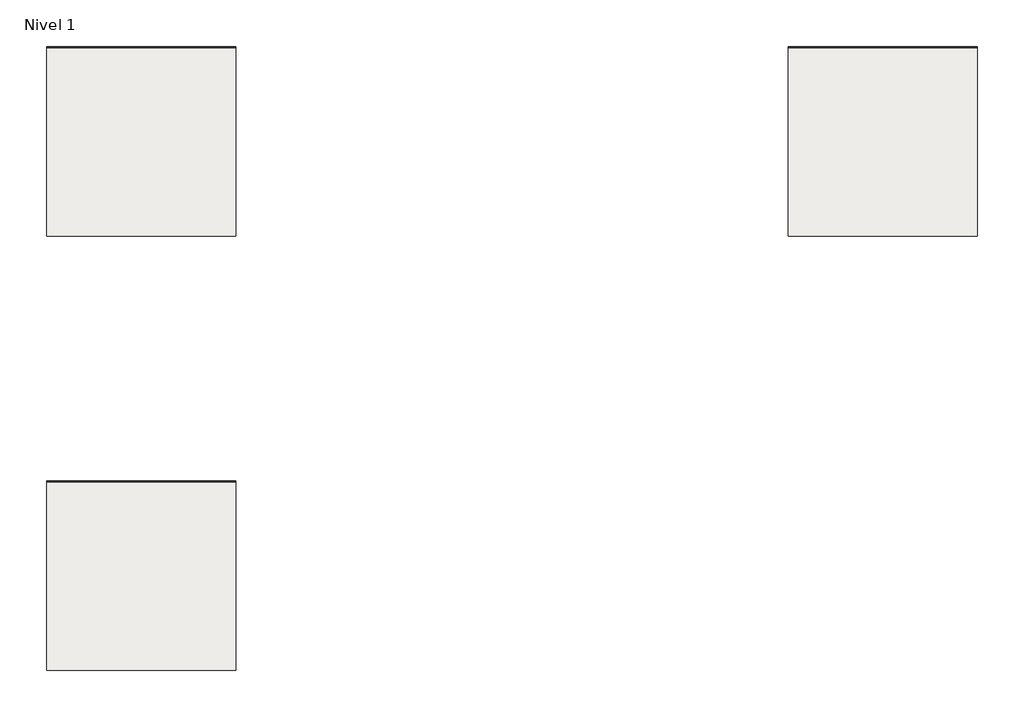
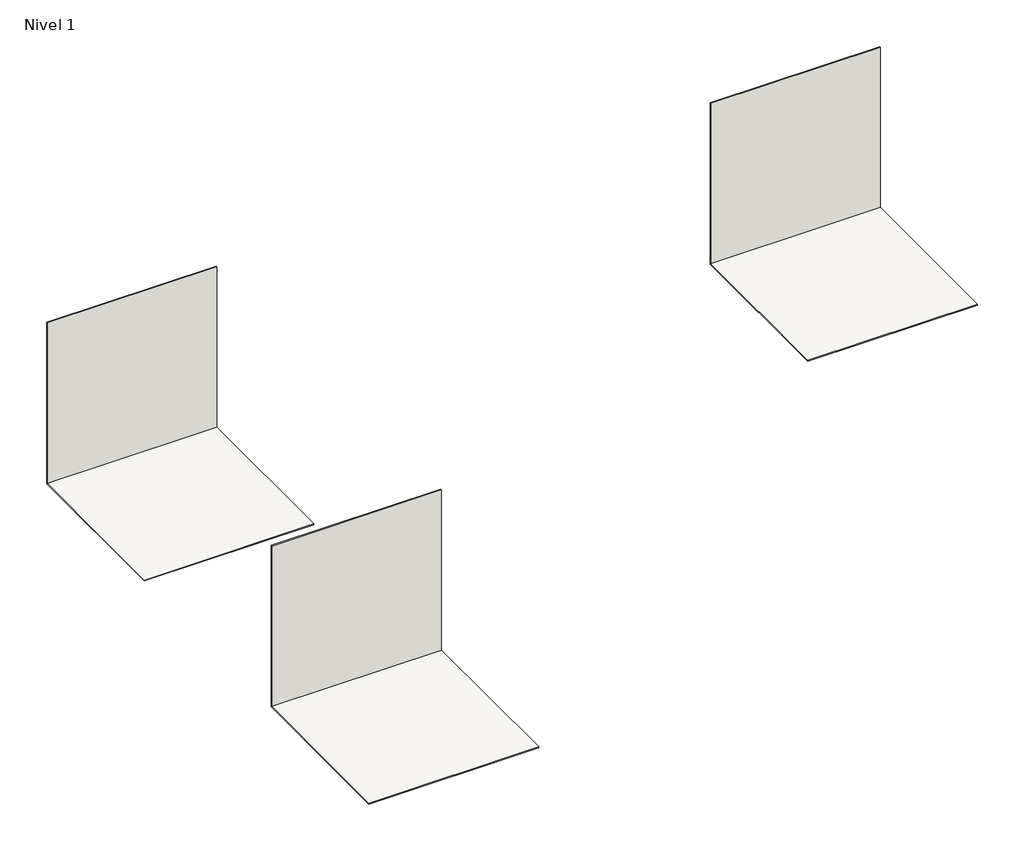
# One storey: 3 slabs, 3 walls.
"""IFC4 building model written with IfcOpenShell, lengths in millimetres."""

from ifc_helpers import new_model, si_unit, frame, origin, origin_with_axes, place, context, project, spatial, polyline, outline, extrude, element, save

model = new_model("IFC4")

# Units and contexts
model_context = context("Model", 3, world=origin())
ifc_project = project(units=[si_unit("LENGTHUNIT", "METRE", prefix="MILLI")], contexts=[model_context])

# Site, building, storey
site = spatial("IfcSite", under=ifc_project)
building = spatial("IfcBuilding", under=site)
storey = spatial("IfcBuildingStorey", under=building, Name="Nivel 1", Elevation=0.0)

# Slabs
placement = place(None, origin())
element("IfcSlab", 1, ObjectType="Pieza 310_Patrón 1/3_Bohème_Glacé_Anti-Slip", at=placement, inside=storey, context=model_context, shape_type="SweptSolid", body=[
    extrude(outline(polyline([(2850.0038801, 4877.1285948), (2850.0038801, 3395.1285948), (1368.0038801, 3395.1285948), (1368.0038801, 4877.1285948), (2850.0038801, 4877.1285948)])), frame((0.0, 0.0, -9.0), z_axis=(0.0, 0.0, 1.0), x_axis=(1.0, 0.0, 0.0)), (0.0, 0.0, 1.0), 9.0),
])
element("IfcSlab", 2, ObjectType="Pieza 310_Patrón 1/3_Pietro_Grey_Anti-Slip", at=placement, inside=storey, context=model_context, shape_type="SweptSolid", body=[
    extrude(outline(polyline([(8650.0038801, 4877.1285948), (8650.0038801, 3395.1285948), (7168.0038801, 3395.1285948), (7168.0038801, 4877.1285948), (8650.0038801, 4877.1285948)])), frame((0.0, 0.0, -9.0), z_axis=(0.0, 0.0, 1.0), x_axis=(1.0, 0.0, 0.0)), (0.0, 0.0, 1.0), 9.0),
])
element("IfcSlab", 3, ObjectType="Pieza 310_Patrón Recto_Natural_Hierro_Anti-Slip", at=placement, inside=storey, context=model_context, shape_type="SweptSolid", body=[
    extrude(outline(polyline([(2850.0038801, 1477.1285948), (2850.0038801, -4.8714052), (1368.0038801, -4.8714052), (1368.0038801, 1477.1285948), (2850.0038801, 1477.1285948)])), frame((0.0, 0.0, -9.0), z_axis=(0.0, 0.0, 1.0), x_axis=(1.0, 0.0, 0.0)), (0.0, 0.0, 1.0), 9.0),
])

# Walls
element("IfcWall", 4, ObjectType="Pieza 310_Patrón 1/3_Bohème_Glacé_Anti-Slip", at=placement, inside=storey, context=model_context, shape_type="SweptSolid", body=[
    extrude(outline(polyline([(2850.0038801, 4868.1285948), (1368.0038801, 4868.1285948), (1368.0038801, 4877.1285948), (2850.0038801, 4877.1285948), (2850.0038801, 4868.1285948)])), origin_with_axes(), (0.0, 0.0, 1.0), 1482.0),
])
element("IfcWall", 5, ObjectType="Pieza 310_Patrón 1/3_Pietro_Grey_Anti-Slip", at=placement, inside=storey, context=model_context, shape_type="SweptSolid", body=[
    extrude(outline(polyline([(8650.0038801, 4868.1285948), (7168.0038801, 4868.1285948), (7168.0038801, 4877.1285948), (8650.0038801, 4877.1285948), (8650.0038801, 4868.1285948)])), origin_with_axes(), (0.0, 0.0, 1.0), 1482.0),
])
element("IfcWall", 6, ObjectType="Pieza 310_Patrón Recto_Natural_Hierro_Anti-Slip", at=placement, inside=storey, context=model_context, shape_type="SweptSolid", body=[
    extrude(outline(polyline([(2850.0038801, 1468.1285948), (1368.0038801, 1468.1285948), (1368.0038801, 1477.1285948), (2850.0038801, 1477.1285948), (2850.0038801, 1468.1285948)])), origin_with_axes(), (0.0, 0.0, 1.0), 1482.0),
])

save(model, "model.ifc")
